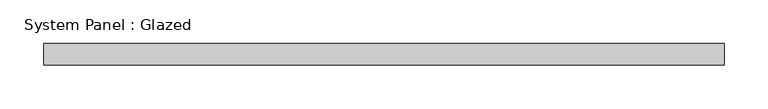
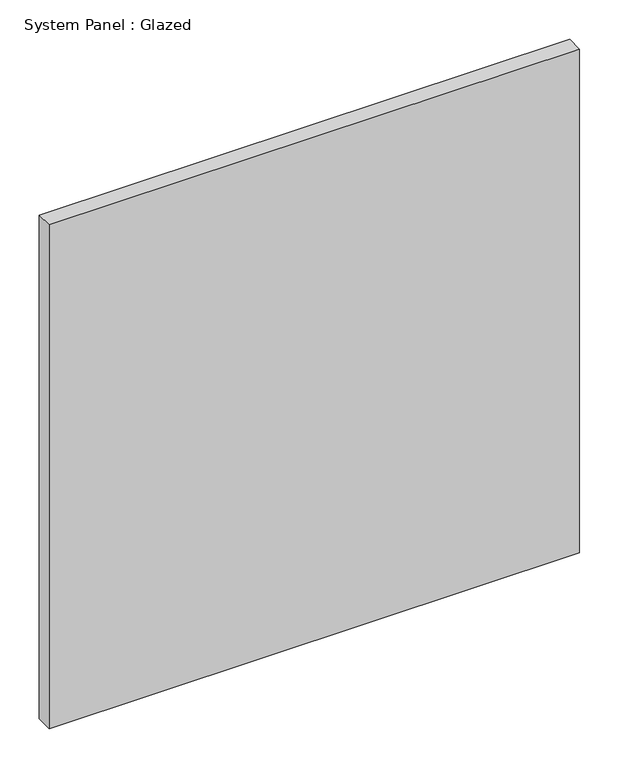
"""IFC4 building model written with IfcOpenShell, lengths in millimetres: plate geometry, System Panel : Glazed."""

from ifc_helpers import new_model, si_unit, origin, origin_with_axes, place, context, project, spatial, polyline, outline, extrude, source, transform, mapped, element, save


def system_panel_glazed_9c9de1b5(model_context):
    return source(origin(), model_context, "Body", "SweptSolid", [
        extrude(outline(polyline([(390.0, 24.5), (-390.0, 24.5), (-390.0, 49.5), (390.0, 49.5), (390.0, 24.5)])), origin_with_axes(), (0.0, 0.0, 1.0), 782.9520935),
    ])


if __name__ == "__main__":
    model = new_model("IFC4")
    model_context = context("Model", 3, world=origin())
    ifc_project = project(units=[si_unit("LENGTHUNIT", "METRE", prefix="MILLI")], contexts=[model_context])
    site = spatial("IfcSite", under=ifc_project)
    building = spatial("IfcBuilding", under=site)
    placement = place(None, origin())
    system_panel_glazed_shape = system_panel_glazed_9c9de1b5(model_context)
    element("IfcPlate", 1, ObjectType="System Panel : Glazed", at=placement, inside=building, context=model_context, shape_type="MappedRepresentation", body=[
        mapped(system_panel_glazed_shape, transform((0.0, 0.0, 0.0), x_axis=(1.0, 0.0, 0.0), y_axis=(0.0, 1.0, 0.0), z_axis=(0.0, 0.0, 1.0))),
    ])
    save(model, "model.ifc")
